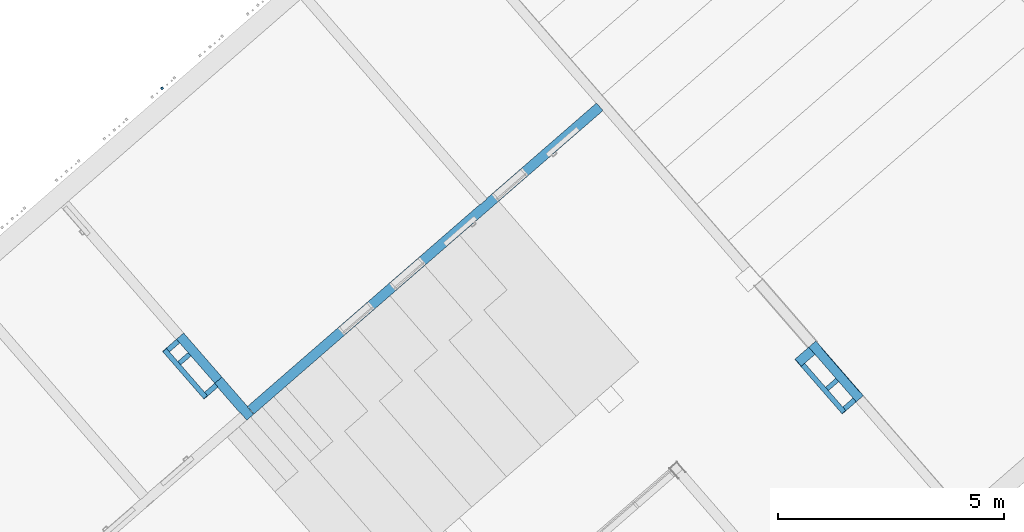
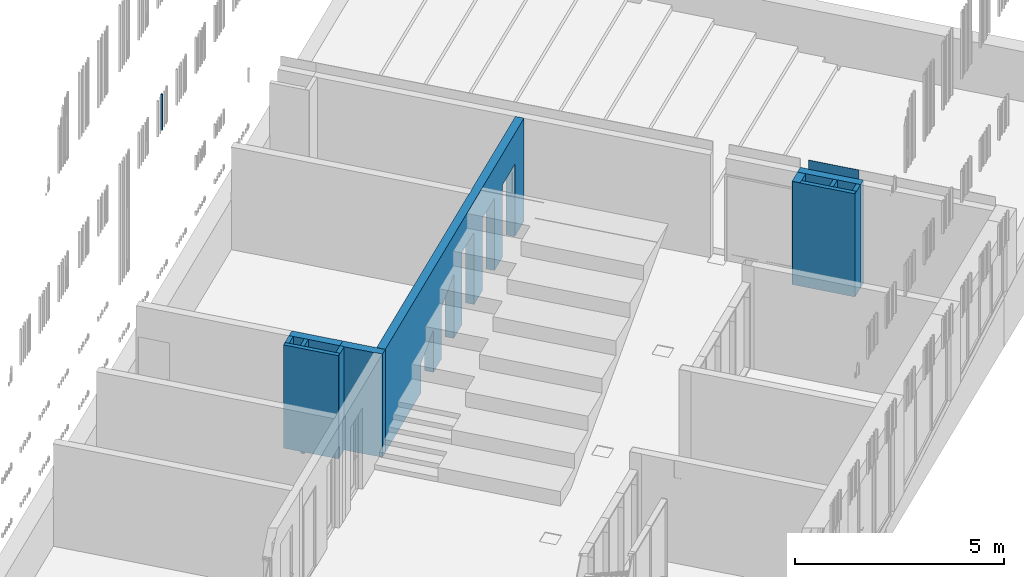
# One storey, part 77 of 124: 13 walls.
"""IFC2X3 building model written with IfcOpenShell, lengths in millimetres."""

import ifcopenshell
import ifcopenshell.guid

model = None  # the IFC model being written
_history = None  # IfcOwnerHistory: only IFC2X3 demands one
_inside = {}  # id of a spatial element -> (the spatial element, [elements in it])
_under = {}  # id of a project, library or spatial element -> (it, [spatial elements below it])
_declared = {}  # id of a project -> (the project, [libraries it declares])
_typed = {}  # id of a type object -> (the type object, [elements of that type])
_made_of = {}  # id of a material, layer set ... -> (it, [elements and type objects made of it])


def new_model(schema):
    """Start an empty IFC model of exactly this schema.

    Asked for "IFC4X3", IfcOpenShell would pick the latest addendum, in which some entities
    have other attributes; the version numbers below select the first issue.
    IFC2X3 requires an IfcOwnerHistory on every rooted entity: one is made here for all.
    """
    global model, _history
    if schema == "IFC4X3":
        model = ifcopenshell.file(schema_version=(4, 3, 0, 0))
    else:
        model = ifcopenshell.file(schema=schema)
    _inside.clear()
    _under.clear()
    _declared.clear()
    _typed.clear()
    _made_of.clear()
    _history = None
    if model.schema == "IFC2X3":
        org = make("IfcOrganization", Name="unknown")
        user = make(
            "IfcPersonAndOrganization",
            ThePerson=make("IfcPerson", FamilyName="unknown"),
            TheOrganization=org,
        )
        app = make(
            "IfcApplication",
            ApplicationDeveloper=org,
            Version="unknown",
            ApplicationFullName="unknown",
            ApplicationIdentifier="unknown",
        )
        _history = make(
            "IfcOwnerHistory",
            OwningUser=user,
            OwningApplication=app,
            ChangeAction="ADDED",
            CreationDate=0,
        )
    return model


def make(cls, **values):
    """One entity of the class cls with the attributes given. An attribute that is None is left unset."""
    return model.create_entity(
        cls, **{name: value for name, value in values.items() if value is not None}
    )


def entity(cls, *values):
    """Any entity or typed value of the class cls, its attributes in the order of the schema. None: left unset."""
    e = model.create_entity(cls)
    for i, value in enumerate(values):
        if value is not None:
            e[i] = value
    return e


def rooted(cls, **values):
    """An entity with a GlobalId (a new one), such as an element, a storey or a relation."""
    return make(cls, GlobalId=ifcopenshell.guid.new(), OwnerHistory=_history, **values)


def si_unit(unit_type, name, prefix=None):
    """IfcSIUnit, for example si_unit("LENGTHUNIT", "METRE", prefix="MILLI")."""
    return make("IfcSIUnit", UnitType=unit_type, Prefix=prefix, Name=name)


def converted_unit(unit_type, name, factor, base, dimensions=None, offset=None):
    """IfcConversionBasedUnit, such as the inch: factor (a typed value) times the base unit."""
    return make(
        "IfcConversionBasedUnit"
        if offset is None
        else "IfcConversionBasedUnitWithOffset",
        ConversionOffset=offset,
        Dimensions=None
        if dimensions is None
        else entity("IfcDimensionalExponents", *dimensions),
        UnitType=unit_type,
        Name=name,
        ConversionFactor=make(
            "IfcMeasureWithUnit", ValueComponent=factor, UnitComponent=base
        ),
    )


def derived_unit(unit_type, elements):
    """IfcDerivedUnit: a product of units, each with its exponent."""
    return make(
        "IfcDerivedUnit",
        Elements=[
            make("IfcDerivedUnitElement", Unit=unit, Exponent=power)
            for unit, power in elements
        ],
        UnitType=unit_type,
    )


def money_unit(currency):
    """IfcMonetaryUnit."""
    return make("IfcMonetaryUnit", Currency=currency)


def assignment(units):
    """IfcUnitAssignment: the units of a project."""
    return None if units is None else make("IfcUnitAssignment", Units=units)


def point(xyz):
    """IfcCartesianPoint."""
    return None if xyz is None else make("IfcCartesianPoint", Coordinates=xyz)


def direction(xyz):
    """IfcDirection."""
    return None if xyz is None else make("IfcDirection", DirectionRatios=xyz)


def frame(location, z_axis=None, x_axis=None):
    """IfcAxis2Placement3D, a coordinate frame: its origin and axes. An axis left out is left unset."""
    return make(
        "IfcAxis2Placement3D",
        Location=point(location),
        Axis=direction(z_axis),
        RefDirection=direction(x_axis),
    )


def origin_with_axes():
    """The frame at (0, 0, 0) with the z axis (0, 0, 1) and the x axis (1, 0, 0) written out."""
    return frame((0.0, 0.0, 0.0), z_axis=(0.0, 0.0, 1.0), x_axis=(1.0, 0.0, 0.0))


def place(relative_to, where):
    """IfcLocalPlacement: puts the frame where relative to a parent placement (None: the world)."""
    return make(
        "IfcLocalPlacement", PlacementRelTo=relative_to, RelativePlacement=where
    )


def context(
    kind, dimensions, precision=None, world=None, true_north=None, identifier=None
):
    """IfcGeometricRepresentationContext, for example the 3D "Model" context."""
    return make(
        "IfcGeometricRepresentationContext",
        ContextIdentifier=identifier,
        ContextType=kind,
        CoordinateSpaceDimension=dimensions,
        Precision=precision,
        WorldCoordinateSystem=world,
        TrueNorth=true_north,
    )


def subcontext(parent, identifier, kind, view, scale=None):
    """IfcGeometricRepresentationSubContext, for example "Body" below "Model"."""
    return make(
        "IfcGeometricRepresentationSubContext",
        ContextIdentifier=identifier,
        ContextType=kind,
        ParentContext=parent,
        TargetScale=scale,
        TargetView=view,
    )


def project(units=None, contexts=None):
    """IfcProject with its units and contexts."""
    return rooted(
        "IfcProject",
        Name="project",
        RepresentationContexts=contexts,
        UnitsInContext=assignment(units),
    )


def spatial(cls, under=None, at=None, **own):
    """A site, building, storey or space (cls), placed at a placement, below another one or the project."""
    s = rooted(cls, ObjectPlacement=at, **own)
    if under is not None:
        _under.setdefault(under.id(), (under, []))[1].append(s)
    return s


def faces_of(points, faces, orient=None, outer=None):
    """IfcFace entities. A face is a list of loops; a loop is a list of indices into points, from 0.

    orient and outer hold one flag for each loop. By default every Orientation is true, the
    first loop of a face is its IfcFaceOuterBound and the others are IfcFaceBound.
    """
    made = []
    for i, loops in enumerate(faces):
        bounds = []
        for j, loop in enumerate(loops):
            is_outer = j == 0 if outer is None else outer[i][j]
            bounds.append(
                make(
                    "IfcFaceOuterBound" if is_outer else "IfcFaceBound",
                    Bound=make("IfcPolyLoop", Polygon=[points[k] for k in loop]),
                    Orientation=True if orient is None else orient[i][j],
                )
            )
        made.append(make("IfcFace", Bounds=bounds))
    return made


def faceted_brep(points, faces, orient=None, outer=None, voids=None):
    """IfcFacetedBrep: a solid bounded by flat faces; with voids (closed shells), ...WithVoids."""
    shared = [point(p) for p in points]
    hull = make("IfcClosedShell", CfsFaces=faces_of(shared, faces, orient, outer))
    if voids is None:
        return make("IfcFacetedBrep", Outer=hull)
    return make(
        "IfcFacetedBrepWithVoids",
        Outer=hull,
        Voids=[
            make(cls, CfsFaces=faces_of(shared, fs, o, b)) for cls, fs, o, b in voids
        ],
    )


def shape(context_of_items, identifier, shape_type, items):
    """IfcShapeRepresentation: the items that make up one representation, for example the "Body"."""
    return make(
        "IfcShapeRepresentation",
        ContextOfItems=context_of_items,
        RepresentationIdentifier=identifier,
        RepresentationType=shape_type,
        Items=items,
    )


def material(Name=None, Category=None):
    """IfcMaterial."""
    return make("IfcMaterial", Name=Name, Category=Category)


def material_list(materials):
    """IfcMaterialList."""
    return make("IfcMaterialList", Materials=materials)


def made_of(thing, what):
    """Note that an element or type object is made of a material, layer set ...; save() writes the relation."""
    if what is not None:
        _made_of.setdefault(what.id(), (what, []))[1].append(thing)
    return thing


def type_object(cls, material=None, **own):
    """A type object (cls), such as IfcWallType, which elements share."""
    return made_of(rooted(cls, **own), material)


def element(
    cls,
    number,
    at=None,
    inside=None,
    cuts=None,
    type_object=None,
    material=None,
    context=None,
    identifier="Body",
    shape_type=None,
    held_by="IfcProductDefinitionShape",
    body=None,
    shapes=None,
    **own,
):
    """One element of the class cls, such as IfcWall. Its Tag is "e" and its number.

    at: its placement. inside: the storey or other place that contains it. cuts: it is an
    opening in that element (IfcRelVoidsElement). A single representation is given by context,
    identifier, shape_type and body (its items); several are given by shapes. held_by: the class
    of the entity that holds the representations. save() writes the other relations.
    """
    e = rooted(cls, Tag="e%d" % number, ObjectPlacement=at, **own)
    if body is not None:
        shapes = [shape(context, identifier, shape_type, body)]
    if shapes is not None:
        e.Representation = make(held_by, Representations=shapes)
    if inside is not None:
        _inside.setdefault(inside.id(), (inside, []))[1].append(e)
    if cuts is not None:
        rooted(
            "IfcRelVoidsElement", RelatingBuildingElement=cuts, RelatedOpeningElement=e
        )
    if type_object is not None:
        _typed.setdefault(type_object.id(), (type_object, []))[1].append(e)
    return made_of(e, material)


def aggregate(whole, parts):
    """IfcRelAggregates: a whole, such as a stair, and the parts it consists of."""
    return rooted("IfcRelAggregates", RelatingObject=whole, RelatedObjects=parts)


def save(model, path):
    """Write the relations noted so far, then the file.

    IfcRelAggregates (storeys below a building ...), IfcRelContainedInSpatialStructure (elements
    in a storey), IfcRelDefinesByType, IfcRelAssociatesMaterial and IfcRelDeclares: one each for
    every whole, place, type object, material and project.
    """
    for whole, parts in _under.values():
        aggregate(whole, parts)
    for where, things in _inside.values():
        rooted(
            "IfcRelContainedInSpatialStructure",
            RelatedElements=things,
            RelatingStructure=where,
        )
    for kind, things in _typed.values():
        rooted("IfcRelDefinesByType", RelatedObjects=things, RelatingType=kind)
    for what, things in _made_of.values():
        rooted("IfcRelAssociatesMaterial", RelatedObjects=things, RelatingMaterial=what)
    for by, libraries in _declared.values():
        rooted("IfcRelDeclares", RelatingContext=by, RelatedDefinitions=libraries)
    model.write(path)


model = new_model("IFC2X3")

# Units and contexts
model_context = context("Model", 3, precision=1e-05, world=origin_with_axes(), true_north=direction((0.0, 1.0)))
body_context = subcontext(model_context, "Body", "Model", "MODEL_VIEW")
ifc_project = project(units=[si_unit("LENGTHUNIT", "METRE", prefix="MILLI"), si_unit("AREAUNIT", "SQUARE_METRE"), si_unit("VOLUMEUNIT", "CUBIC_METRE"), converted_unit("PLANEANGLEUNIT", "DEGREE", entity("IfcPlaneAngleMeasure", 0.0174532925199), si_unit("PLANEANGLEUNIT", "RADIAN"), dimensions=[0, 0, 0, 0, 0, 0, 0]), si_unit("SOLIDANGLEUNIT", "STERADIAN"), money_unit("EUR"), converted_unit("TIMEUNIT", "Year", entity("IfcTimeMeasure", 31556926.0), si_unit("TIMEUNIT", "SECOND"), dimensions=[0, 0, 1, 0, 0, 0, 0]), si_unit("MASSUNIT", "GRAM", prefix="KILO"), si_unit("THERMODYNAMICTEMPERATUREUNIT", "DEGREE_CELSIUS"), si_unit("LUMINOUSINTENSITYUNIT", "LUMEN"), si_unit("ENERGYUNIT", "JOULE", prefix="MEGA"), derived_unit("THERMALCONDUCTANCEUNIT", [(si_unit("POWERUNIT", "WATT"), 1), (si_unit("LENGTHUNIT", "METRE"), -1), (si_unit("THERMODYNAMICTEMPERATUREUNIT", "KELVIN"), -1)]), derived_unit("SPECIFICHEATCAPACITYUNIT", [(si_unit("ENERGYUNIT", "JOULE"), 1), (si_unit("MASSUNIT", "GRAM", prefix="KILO"), -1), (si_unit("THERMODYNAMICTEMPERATUREUNIT", "KELVIN"), -1)]), derived_unit("MASSDENSITYUNIT", [(si_unit("MASSUNIT", "GRAM", prefix="KILO"), 1), (si_unit("VOLUMEUNIT", "CUBIC_METRE"), -1)])], contexts=[model_context])

# Site, building, storey
site_placement = place(None, origin_with_axes())
site = spatial("IfcSite", under=ifc_project, at=site_placement, Name="Site", CompositionType="ELEMENT")
building_placement = place(site_placement, origin_with_axes())
building = spatial("IfcBuilding", under=site, at=building_placement, Name="Building", CompositionType="ELEMENT")
storey_placement = place(building_placement, frame((0.0, 0.0, -1615.0), z_axis=(0.0, 0.0, 1.0), x_axis=(1.0, 0.0, 0.0)))
storey = spatial("IfcBuildingStorey", under=building, at=storey_placement, Name="0  korrus", CompositionType="ELEMENT", Elevation=-1615.0)

# Walls
ifc_material_1 = material(Name="Müüriplokk - Konstuktsioon")
wall_type_1 = type_object("IfcWallType", Name="SS-09", PredefinedType="NOTDEFINED")
wall_1_placement = place(storey_placement, frame((155142.671632, 98563.6640369, -150.0), z_axis=(0.0, 0.0, 1.0), x_axis=(-0.754709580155, -0.656059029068, 0.0)))
element("IfcWall", 1, at=wall_1_placement, inside=storey, type_object=wall_type_1, material=ifc_material_1, Name="SS-09", context=body_context, shape_type="Brep", body=[
    faceted_brep([(0.0, 100.0, 0.0), (0.00632440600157, 100.00000001, 130.0), (0.00632440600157, 100.0, 3150.0), (300.004503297, 100.0, 3150.0), (300.004503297, 100.000000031, 130.0), (300.0, 100.0, 0.0), (0.0, 0.0, 0.0), (0.00648134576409, 1.01749719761e-08, 130.0), (0.00648134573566, 0.0, 3150.0), (300.005184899, 0.0, 3150.0), (300.005184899, 3.53423956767e-08, 130.0), (300.0, 0.0, 0.0)], [[[0, 1, 2, 3, 4, 5]], [[6, 7, 8, 2, 1, 0]], [[3, 2, 8, 9]], [[5, 4, 3, 9, 10, 11]], [[6, 0, 5, 11]], [[9, 8, 7, 6, 11, 10]]]),
])
wall_2_placement = place(storey_placement, frame((169456.785265, 97995.1121238, -20.0), z_axis=(0.0, 0.0, 1.0), x_axis=(-0.754709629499, -0.656058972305, 0.0)))
element("IfcWall", 2, at=wall_2_placement, inside=storey, type_object=wall_type_1, material=ifc_material_1, Name="SS-09", context=body_context, shape_type="Brep", body=[
    faceted_brep([(299.999978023, 100.0, 0.0), (299.999926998, 0.0, 0.0), (-0.000105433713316, 0.0, 0.0), (-5.90422644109e-05, 100.0, 0.0), (299.999978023, 100.0, 3020.0), (299.999926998, 0.0, 3020.0), (-0.000105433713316, 0.0, 3020.0), (-5.90422644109e-05, 100.0, 3020.0)], [[[0, 1, 2, 3]], [[1, 0, 4, 5]], [[1, 5, 6, 2]], [[7, 3, 2, 6]], [[4, 0, 3, 7]], [[5, 4, 7, 6]]]),
])
ifc_material_2 = material(Name="Krohv - Lubjakivi")
ifc_material_3 = material(Name="Raudbetoon - Konstruktsioon")
ifc_material_list_1 = material_list([ifc_material_2, ifc_material_3, ifc_material_2, ifc_material_2])
wall_type_2 = type_object("IfcWallType", Name="SS-10", PredefinedType="NOTDEFINED")
wall_3_placement = place(storey_placement, frame((164305.735635, 103905.474868, -20.0), z_axis=(0.0, 0.0, 1.0), x_axis=(-0.754709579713, -0.656059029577, 0.0)))
element("IfcWall", 3, at=wall_3_placement, inside=storey, type_object=wall_type_2, material=ifc_material_list_1, Name="SS-10", context=body_context, shape_type="Brep", body=[
    faceted_brep([(4570.09832953, 0.0, 20.0), (4570.09832953, 0.0, 2120.0), (3670.09832953, 0.0, 2120.0), (3670.09832953, 0.0, 20.0), (3670.09832953, 0.0, 0.0), (3070.09832953, 0.0, 0.0), (3070.09832953, 0.0, 20.0), (3070.09832953, 0.0, 2120.0), (2170.09832953, 0.0, 2120.0), (2170.09832953, 0.0, 20.0), (2170.09832953, 0.0, 0.0), (1570.09832953, 0.0, 0.0), (1570.09832953, 0.0, 20.0), (1570.09832953, 0.0, 2120.0), (670.098329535, 0.0, 2120.0), (670.098329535, 0.0, 20.0), (670.098329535, 0.0, 0.0), (-0.000138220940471, 0.0, 0.0), (-0.000138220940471, 0.0, 3020.0), (10210.0001384, 0.0, 3020.0), (10210.0001384, 0.0, 0.0), (7570.00015422, 0.0, 0.0), (7570.00015422, 0.0, 20.0), (7570.00015422, 0.0, 865.0), (6670.00015422, 0.0, 1241.0), (6670.00015422, 0.0, 20.0), (6670.00015422, 0.0, 0.0), (6070.00015422, 0.0, 0.0), (6070.00015422, 0.0, 20.0), (6070.00015422, 0.0, 1492.0), (5170.00015422, 0.0, 1869.0), (5170.00015422, 0.0, 20.0), (5170.00015422, 0.0, 0.0), (4570.09832953, 0.0, 0.0), (4570.09832953, -10.0, 20.0), (4570.09832953, -10.0, 2120.0), (3670.09832953, -10.0, 2120.0), (3670.09832953, -10.0, 20.0), (3670.09832953, -9.99999999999, 0.0), (3070.09832953, -9.99999999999, 0.0), (3070.09832953, -10.0, 20.0), (3070.09832953, -10.0, 2120.0), (2170.09832953, -10.0, 2120.0), (2170.09832953, -10.0, 20.0), (2170.09832953, -10.0, 0.0), (1570.09832953, -9.99999999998, 0.0), (1570.09832953, -10.0, 20.0), (1570.09832953, -10.0, 2120.0), (670.098329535, -10.0, 2120.0), (670.098329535, -10.0, 20.0), (670.098329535, -9.99999999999, 0.0), (-0.000138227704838, -9.99999999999, 0.0), (-0.000138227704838, -9.99999999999, 3020.0), (10210.0001384, -10.0, 3020.0), (10210.0001384, -10.0, 0.0), (7570.00015422, -10.0, 0.0), (7570.00015422, -10.0, 20.0), (7570.00015422, -10.0, 865.0), (6670.00015422, -10.0, 1241.0), (6670.00015422, -10.0, 20.0), (6670.00015422, -9.99999999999, 0.0), (6070.00015422, -10.0, 0.0), (6070.00015422, -10.0, 20.0), (6070.00015422, -10.0, 1492.0), (5170.00015422, -10.0, 1869.0), (5170.00015422, -10.0, 20.0), (5170.00015422, -9.99999999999, 0.0), (4570.09832953, -10.0, 0.0)], [[[0, 1, 2, 3, 4, 5, 6, 7, 8, 9, 10, 11, 12, 13, 14, 15, 16, 17, 18, 19, 20, 21, 22, 23, 24, 25, 26, 27, 28, 29, 30, 31, 32, 33]], [[1, 0, 34, 35]], [[2, 1, 35, 36]], [[3, 2, 36, 37]], [[3, 37, 38, 4]], [[38, 39, 5, 4]], [[39, 40, 6, 5]], [[41, 7, 6, 40]], [[42, 8, 7, 41]], [[43, 9, 8, 42]], [[10, 9, 43, 44]], [[44, 45, 11, 10]], [[12, 11, 45, 46]], [[12, 46, 47, 13]], [[13, 47, 48, 14]], [[14, 48, 49, 15]], [[49, 50, 16, 15]], [[50, 51, 17, 16]], [[52, 18, 17, 51]], [[53, 19, 18, 52]], [[53, 54, 20, 19]], [[21, 20, 54, 55]], [[56, 22, 21, 55]], [[23, 22, 56, 57]], [[24, 23, 57, 58]], [[25, 24, 58, 59]], [[25, 59, 60, 26]], [[60, 61, 27, 26]], [[27, 61, 62, 28]], [[62, 63, 29, 28]], [[63, 64, 30, 29]], [[64, 65, 31, 30]], [[66, 32, 31, 65]], [[66, 67, 33, 32]], [[34, 0, 33, 67]], [[35, 34, 67, 66, 65, 64, 63, 62, 61, 60, 59, 58, 57, 56, 55, 54, 53, 52, 51, 50, 49, 48, 47, 46, 45, 44, 43, 42, 41, 40, 39, 38, 37, 36]]]),
    faceted_brep([(4570.09832953, -10.0, 20.0), (4570.09832953, -10.0, 2120.0), (3670.09832953, -10.0, 2120.0), (3670.09832953, -10.0, 20.0), (3670.09832953, -10.0, 0.0), (3070.09832953, -10.0, 0.0), (3070.09832953, -10.0, 20.0), (3070.09832953, -10.0, 2120.0), (2170.09832953, -10.0, 2120.0), (2170.09832953, -10.0, 20.0), (2170.09832953, -10.0, 0.0), (1570.09832953, -10.0, 0.0), (1570.09832953, -10.0, 20.0), (1570.09832953, -10.0, 2120.0), (670.098329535, -10.0, 2120.0), (670.098329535, -10.0, 20.0), (670.098329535, -10.0, 0.0), (-10.0001382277, -10.0, 0.0), (-10.0001382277, -10.0, 3020.0), (10210.0001384, -10.0, 3020.0), (10210.0001384, -10.0, 0.0), (7570.00015422, -10.0, 0.0), (7570.00015422, -10.0, 20.0), (7570.00015422, -10.0, 865.0), (6670.00015422, -10.0, 1241.0), (6670.00015422, -10.0, 20.0), (6670.00015422, -10.0, 0.0), (6070.00015422, -10.0, 0.0), (6070.00015422, -10.0, 20.0), (6070.00015422, -10.0, 1492.0), (5170.00015422, -10.0, 1869.0), (5170.00015422, -10.0, 20.0), (5170.00015422, -10.0, 0.0), (4570.09832953, -10.0, 0.0), (4570.09832953, -210.0, 20.0), (4570.09832953, -210.0, 2120.0), (3670.09832953, -210.0, 2120.0), (3670.09832953, -210.0, 20.0), (3670.09832953, -210.0, 0.0), (3070.09832953, -210.0, 0.0), (3070.09832953, -210.0, 20.0), (3070.09832953, -210.0, 2120.0), (2170.09832953, -210.0, 2120.0), (2170.09832953, -210.0, 20.0), (2170.09832953, -210.0, 0.0), (1570.09832953, -210.0, 0.0), (1570.09832953, -210.0, 20.0), (1570.09832953, -210.0, 2120.0), (670.098329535, -210.0, 2120.0), (670.098329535, -210.0, 20.0), (670.098329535, -210.0, 0.0), (-10.0001383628, -210.0, 0.0), (-10.0001383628, -210.0, 3020.0), (10210.0001384, -210.0, 3020.0), (10210.0001384, -210.0, 0.0), (7570.00015422, -210.0, 0.0), (7570.00015422, -210.0, 20.0), (7570.00015422, -210.0, 865.0), (6670.00015422, -210.0, 1241.0), (6670.00015422, -210.0, 20.0), (6670.00015422, -210.0, 0.0), (6070.00015422, -210.0, 0.0), (6070.00015422, -210.0, 20.0), (6070.00015422, -210.0, 1492.0), (5170.00015422, -210.0, 1869.0), (5170.00015422, -210.0, 20.0), (5170.00015422, -210.0, 0.0), (4570.09832953, -210.0, 0.0)], [[[0, 1, 2, 3, 4, 5, 6, 7, 8, 9, 10, 11, 12, 13, 14, 15, 16, 17, 18, 19, 20, 21, 22, 23, 24, 25, 26, 27, 28, 29, 30, 31, 32, 33]], [[1, 0, 34, 35]], [[2, 1, 35, 36]], [[3, 2, 36, 37]], [[3, 37, 38, 4]], [[38, 39, 5, 4]], [[39, 40, 6, 5]], [[41, 7, 6, 40]], [[42, 8, 7, 41]], [[43, 9, 8, 42]], [[10, 9, 43, 44]], [[44, 45, 11, 10]], [[12, 11, 45, 46]], [[12, 46, 47, 13]], [[13, 47, 48, 14]], [[14, 48, 49, 15]], [[49, 50, 16, 15]], [[50, 51, 17, 16]], [[52, 18, 17, 51]], [[53, 19, 18, 52]], [[53, 54, 20, 19]], [[21, 20, 54, 55]], [[56, 22, 21, 55]], [[23, 22, 56, 57]], [[24, 23, 57, 58]], [[25, 24, 58, 59]], [[25, 59, 60, 26]], [[60, 61, 27, 26]], [[27, 61, 62, 28]], [[62, 63, 29, 28]], [[63, 64, 30, 29]], [[64, 65, 31, 30]], [[66, 32, 31, 65]], [[66, 67, 33, 32]], [[34, 0, 33, 67]], [[35, 34, 67, 66, 65, 64, 63, 62, 61, 60, 59, 58, 57, 56, 55, 54, 53, 52, 51, 50, 49, 48, 47, 46, 45, 44, 43, 42, 41, 40, 39, 38, 37, 36]]]),
    faceted_brep([(1570.09832953, -210.0, 20.0), (1570.09832953, -210.0, 2120.0), (670.098329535, -210.0, 2120.0), (670.098329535, -210.0, 20.0), (670.098329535, -210.0, 0.0), (-0.000138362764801, -210.0, 0.0), (-0.000138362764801, -210.0, 3020.0), (3210.00013713, -210.0, 3020.0), (3210.00013713, -210.0, 0.0), (3070.09832953, -210.0, 0.0), (3070.09832953, -210.0, 20.0), (3070.09832953, -210.0, 2120.0), (2170.09832953, -210.0, 2120.0), (2170.09832953, -210.0, 20.0), (2170.09832953, -210.0, 0.0), (1570.09832953, -210.0, 0.0), (1570.09832953, -220.0, 20.0), (1570.09832953, -220.0, 2120.0), (670.098329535, -220.0, 2120.0), (670.098329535, -220.0, 20.0), (670.098329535, -220.0, 0.0), (-0.000138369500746, -220.0, 0.0), (-0.000138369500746, -220.0, 3020.0), (3210.00013713, -220.0, 3020.0), (3210.00013713, -220.0, 0.0), (3070.09832953, -220.0, 0.0), (3070.09832953, -220.0, 20.0), (3070.09832953, -220.0, 2120.0), (2170.09832953, -220.0, 2120.0), (2170.09832953, -220.0, 20.0), (2170.09832953, -220.0, 0.0), (1570.09832953, -220.0, 0.0)], [[[0, 1, 2, 3, 4, 5, 6, 7, 8, 9, 10, 11, 12, 13, 14, 15]], [[1, 0, 16, 17]], [[2, 1, 17, 18]], [[3, 2, 18, 19]], [[3, 19, 20, 4]], [[21, 5, 4, 20]], [[6, 5, 21, 22]], [[6, 22, 23, 7]], [[24, 8, 7, 23]], [[8, 24, 25, 9]], [[10, 9, 25, 26]], [[10, 26, 27, 11]], [[11, 27, 28, 12]], [[12, 28, 29, 13]], [[29, 30, 14, 13]], [[31, 15, 14, 30]], [[16, 0, 15, 31]], [[17, 16, 31, 30, 29, 28, 27, 26, 25, 24, 23, 22, 21, 20, 19, 18]]]),
    faceted_brep([(4570.09832953, -210.0, 20.0), (4570.09832953, -210.0, 2120.0), (3670.09832953, -210.0, 2120.0), (3670.09832953, -210.0, 20.0), (3670.09832953, -210.0, 0.0), (3410.00013713, -210.0, 0.0), (3410.00013713, -210.0, 3020.0), (10210.0001384, -210.0, 3020.0), (10210.0001384, -210.0, 0.0), (7570.00015422, -210.0, 0.0), (7570.00015422, -210.0, 20.0), (7570.00015422, -210.0, 865.0), (6670.00015422, -210.0, 1241.0), (6670.00015422, -210.0, 20.0), (6670.00015422, -210.0, 0.0), (6070.00015422, -210.0, 0.0), (6070.00015422, -210.0, 20.0), (6070.00015422, -210.0, 1492.0), (5170.00015422, -210.0, 1869.0), (5170.00015422, -210.0, 20.0), (5170.00015422, -210.0, 0.0), (4570.09832953, -210.0, 0.0), (4570.09832953, -220.0, 20.0), (4570.09832953, -220.0, 2120.0), (3670.09832953, -220.0, 2120.0), (3670.09832953, -220.0, 20.0), (3670.09832953, -220.0, 0.0), (3410.00013713, -220.0, 0.0), (3410.00013713, -220.0, 3020.0), (10210.0001384, -220.0, 3020.0), (10210.0001384, -220.0, 0.0), (7570.00015422, -220.0, 0.0), (7570.00015422, -220.0, 20.0), (7570.00015422, -220.0, 865.0), (6670.00015422, -220.0, 1241.0), (6670.00015422, -220.0, 20.0), (6670.00015422, -220.0, 0.0), (6070.00015422, -220.0, 0.0), (6070.00015422, -220.0, 20.0), (6070.00015422, -220.0, 1492.0), (5170.00015422, -220.0, 1869.0), (5170.00015422, -220.0, 20.0), (5170.00015422, -220.0, 0.0), (4570.09832953, -220.0, 0.0)], [[[0, 1, 2, 3, 4, 5, 6, 7, 8, 9, 10, 11, 12, 13, 14, 15, 16, 17, 18, 19, 20, 21]], [[1, 0, 22, 23]], [[2, 1, 23, 24]], [[3, 2, 24, 25]], [[3, 25, 26, 4]], [[5, 4, 26, 27]], [[5, 27, 28, 6]], [[6, 28, 29, 7]], [[8, 7, 29, 30]], [[30, 31, 9, 8]], [[9, 31, 32, 10]], [[32, 33, 11, 10]], [[33, 34, 12, 11]], [[34, 35, 13, 12]], [[36, 14, 13, 35]], [[15, 14, 36, 37]], [[16, 15, 37, 38]], [[16, 38, 39, 17]], [[17, 39, 40, 18]], [[18, 40, 41, 19]], [[41, 42, 20, 19]], [[21, 20, 42, 43]], [[22, 0, 21, 43]], [[23, 22, 43, 42, 41, 40, 39, 38, 37, 36, 35, 34, 33, 32, 31, 30, 29, 28, 27, 26, 25, 24]]]),
])
ifc_material_list_2 = material_list([ifc_material_2, ifc_material_2, ifc_material_3, ifc_material_2, ifc_material_2])
wall_4_placement = place(storey_placement, frame((155725.577663, 97877.8648252, -20.0), z_axis=(0.0, 0.0, 1.0), x_axis=(0.656055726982, -0.754712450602, 0.0)))
element("IfcWall", 4, at=wall_4_placement, inside=storey, type_object=wall_type_2, material=ifc_material_list_2, Name="SS-10", context=body_context, shape_type="Brep", body=[
    faceted_brep([(1079.99507052, 220.0, 0.0), (1079.99507052, 210.0, 0.0), (1066.4370857, 210.0, 0.0), (1066.43704195, 220.0, 0.0), (1079.99507052, 220.0, 3020.0), (1079.99507052, 210.0, 3020.0), (1066.4370857, 210.0, 3020.0), (1066.43704195, 220.0, 3020.0)], [[[0, 1, 2, 3]], [[0, 4, 5, 1]], [[1, 5, 6, 2]], [[3, 2, 6, 7]], [[4, 0, 3, 7]], [[5, 4, 7, 6]]]),
    faceted_brep([(866.437085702, 210.0, 0.0), (-0.000918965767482, 210.0, 0.0), (-0.000962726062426, 220.0, 0.0), (866.43704195, 220.0, 0.0), (866.437085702, 210.0, 3020.0), (-0.000918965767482, 210.0, 3020.0), (-0.000962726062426, 220.0, 3020.0), (866.43704195, 220.0, 3020.0)], [[[0, 1, 2, 3]], [[4, 5, 1, 0]], [[2, 1, 5, 6]], [[3, 2, 6, 7]], [[3, 7, 4, 0]], [[7, 6, 5, 4]]]),
    faceted_brep([(1079.99507052, 210.0, 0.0), (1079.99507052, 10.0, 0.0), (-4.37602665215e-05, 10.0, 0.0), (-0.000918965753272, 210.0, 0.0), (1079.99507052, 210.0, 3020.0), (1079.99507052, 10.0, 3020.0), (-4.37602665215e-05, 10.0, 3020.0), (-0.000918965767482, 210.0, 3020.0)], [[[0, 1, 2, 3]], [[0, 4, 5, 1]], [[1, 5, 6, 2]], [[3, 2, 6, 7]], [[4, 0, 3, 7]], [[5, 4, 7, 6]]]),
    faceted_brep([(1079.99507052, 10.0, 0.0), (1079.99507052, 0.0, 0.0), (1066.4380045, 0.0, 0.0), (1066.43796075, 10.0, 0.0), (1079.99507052, 10.0, 3020.0), (1079.99507052, 0.0, 3020.0), (1066.4380045, 0.0, 3020.0), (1066.43796075, 10.0, 3020.0)], [[[0, 1, 2, 3]], [[0, 4, 5, 1]], [[1, 5, 6, 2]], [[3, 2, 6, 7]], [[4, 0, 3, 7]], [[5, 4, 7, 6]]]),
    faceted_brep([(866.438004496, 0.0, 0.0), (100.000000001, 0.0, 0.0), (99.9999562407, 9.99999999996, 0.0), (866.437960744, 10.0, 0.0), (866.438004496, 0.0, 3020.0), (100.000000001, 0.0, 3020.0), (99.9999562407, 9.99999999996, 3020.0), (866.437960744, 10.0, 3020.0)], [[[0, 1, 2, 3]], [[4, 5, 1, 0]], [[2, 1, 5, 6]], [[3, 2, 6, 7]], [[3, 7, 4, 0]], [[7, 6, 5, 4]]]),
])
ifc_material_list_3 = material_list([ifc_material_2, ifc_material_1])
wall_type_3 = type_object("IfcWallType", Name="SS-02", PredefinedType="NOTDEFINED")
wall_5_placement = place(storey_placement, frame((168771.13142, 98326.591455, -20.0), z_axis=(0.0, 0.0, 1.0), x_axis=(0.754709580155, 0.656059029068, 0.0)))
element("IfcWall", 5, at=wall_5_placement, inside=storey, type_object=wall_type_3, material=ifc_material_list_3, Name="SS-02", context=body_context, shape_type="Brep", body=[
    faceted_brep([(300.000107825, 200.0, 0.0), (-109.999882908, 200.0, 0.0), (-109.999877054, 210.0, 0.0), (300.000113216, 210.0, 0.0), (300.000107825, 200.0, 3020.0), (-109.999882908, 200.0, 3020.0), (-109.999877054, 210.0, 3020.0), (300.000113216, 210.0, 3020.0)], [[[0, 1, 2, 3]], [[4, 5, 1, 0]], [[2, 1, 5, 6]], [[3, 2, 6, 7]], [[3, 7, 4, 0]], [[7, 6, 5, 4]]]),
    faceted_brep([(300.0, 0.0, 0.0), (-100.0, 0.0, 0.0), (-99.9998829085, 200.0, 0.0), (300.000107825, 200.0, 0.0), (300.0, 0.0, 3020.0), (-100.0, 0.0, 3020.0), (-99.9998829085, 200.0, 3020.0), (300.000107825, 200.0, 3020.0)], [[[0, 1, 2, 3]], [[4, 5, 1, 0]], [[2, 1, 5, 6]], [[3, 2, 6, 7]], [[3, 7, 4, 0]], [[7, 6, 5, 4]]]),
])
ifc_material_list_4 = material_list([ifc_material_2, ifc_material_3])
wall_type_4 = type_object("IfcWallType", Name="SS-11", PredefinedType="NOTDEFINED")
wall_6_placement = place(storey_placement, frame((168997.544294, 98523.4091637, -20.0), z_axis=(0.0, 0.0, 1.0), x_axis=(0.656058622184, -0.754709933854, 0.0)))
element("IfcWall", 6, at=wall_6_placement, inside=storey, type_object=wall_type_4, material=ifc_material_list_4, Name="SS-11", context=body_context, shape_type="Brep", body=[
    faceted_brep([(0.0, 209.999998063, 3285.0), (1280.00002257, 209.999998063, 3285.0), (1280.00002257, 209.999998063, 3020.0), (1389.99989743, 209.999998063, 3020.0), (1389.99989743, 210.0, 0.0), (-210.000115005, 210.0, 0.0), (-210.000115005, 209.999998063, 3020.0), (0.0, 209.999998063, 3020.0), (0.0, 200.000000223, 3285.0), (1280.00002257, 200.000000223, 3285.0), (1280.00002257, 200.000000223, 3020.0), (1389.99990282, 200.000000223, 3020.0), (1389.99990282, 200.0, 0.0), (-210.000109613, 200.0, 0.0), (-210.000109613, 200.000000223, 3020.0), (0.0, 200.000000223, 3020.0)], [[[0, 1, 2, 3, 4, 5, 6, 7]], [[8, 9, 1, 0]], [[10, 2, 1, 9]], [[10, 11, 3, 2]], [[4, 3, 11, 12]], [[5, 4, 12, 13]], [[13, 14, 6, 5]], [[15, 7, 6, 14]], [[15, 8, 0, 7]], [[11, 10, 9, 8, 15, 14, 13, 12]]]),
    faceted_brep([(-7.8750559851e-05, 199.999841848, 3020.0), (1279.99991474, 200.000590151, 3020.0), (1389.99990282, 200.000000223, 3020.0), (1389.99990282, 200.0, 0.0), (-210.000109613, 200.0, 0.0), (-210.000109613, 200.000000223, 3020.0), (2.90745845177e-05, 0.00010317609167, 3020.0), (1280.00002257, -0.000132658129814, 3020.0), (1390.00001064, 0.0, 3020.0), (-210.000001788, 0.0, 3020.0), (1390.00001064, 0.0, 0.0), (-210.000001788, 0.0, 0.0)], [[[0, 1, 2, 3, 4, 5]], [[6, 7, 8, 2, 1, 0, 5, 9]], [[3, 2, 8, 10]], [[4, 3, 10, 11]], [[11, 9, 5, 4]], [[7, 6, 9, 11, 10, 8]]]),
])
wall_7_placement = place(storey_placement, frame((154886.800038, 98857.9998227, -20.0), z_axis=(0.0, 0.0, 1.0), x_axis=(0.656060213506, -0.754708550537, 0.0)))
element("IfcWall", 7, at=wall_7_placement, inside=storey, type_object=wall_type_4, material=ifc_material_list_4, Name="SS-11", context=body_context, shape_type="Brep", body=[
    faceted_brep([(1289.99999998, 210.0, 0.0), (1289.99999998, 200.0, 0.0), (0.0, 200.0, 0.0), (0.0, 210.0, 0.0), (1289.99999998, 210.0, 3020.0), (1289.99999998, 200.0, 3020.0), (0.0, 200.0, 3020.0), (0.0, 210.0, 3020.0)], [[[0, 1, 2, 3]], [[0, 4, 5, 1]], [[1, 5, 6, 2]], [[3, 2, 6, 7]], [[4, 0, 3, 7]], [[5, 4, 7, 6]]]),
    faceted_brep([(1289.99999998, 200.0, 0.0), (1289.99999998, 0.0, 0.0), (0.0, 0.0, 0.0), (0.0, 200.0, 0.0), (1289.99999998, 200.0, 3020.0), (1289.99999998, 0.0, 3020.0), (0.0, 0.0, 3020.0), (0.0, 200.0, 3020.0)], [[[0, 1, 2, 3]], [[0, 4, 5, 1]], [[1, 5, 6, 2]], [[3, 2, 6, 7]], [[4, 0, 3, 7]], [[5, 4, 7, 6]]]),
])
ifc_material_4 = material(Name="Site specified")
wall_type_5 = type_object("IfcWallType", Name="Puitfassaadi ribistik", PredefinedType="NOTDEFINED")
wall_8_placement = place(storey_placement, frame((154570.66241, 104402.642678, 5771.0), z_axis=(0.0, 0.0, 1.0), x_axis=(0.754709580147, 0.656059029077, 0.0)))
element("IfcWall", 8, at=wall_8_placement, inside=storey, type_object=wall_type_5, material=ifc_material_4, Name="Site specified", context=body_context, shape_type="Brep", body=[
    faceted_brep([(25.0, 25.0, 1050.0), (25.0, 25.0, 0.0), (-25.0, 25.0, 0.0), (-25.0, 25.0, 1050.0), (25.0, -25.0, 1050.0), (25.0, -25.0, 0.0), (-25.0, -25.0, 0.0), (-25.0, -25.0, 1050.0)], [[[0, 1, 2, 3]], [[4, 5, 1, 0]], [[2, 1, 5, 6]], [[3, 2, 6, 7]], [[4, 0, 3, 7]], [[7, 6, 5, 4]]]),
])
wall_type_6 = type_object("IfcWallType", Name="SS-08", PredefinedType="NOTDEFINED")
wall_9_placement = place(storey_placement, frame((154732.553657, 98578.1640602, -20.0), z_axis=(0.0, 0.0, 1.0), x_axis=(0.754709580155, 0.656059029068, 0.0)))
element("IfcWall", 9, at=wall_9_placement, inside=storey, type_object=wall_type_6, material=ifc_material_list_3, Name="SS-08", context=body_context, shape_type="Brep", body=[
    faceted_brep([(300.000015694, 100.0, 0.0), (-100.000681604, 100.0, 0.0), (-100.000749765, 110.0, 0.0), (300.0, 110.0, 0.0), (300.000015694, 100.0, 3020.0), (-100.000681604, 100.0, 3020.0), (-100.000749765, 110.0, 3020.0), (300.0, 110.0, 3020.0)], [[[0, 1, 2, 3]], [[4, 5, 1, 0]], [[2, 1, 5, 6]], [[3, 2, 6, 7]], [[3, 7, 4, 0]], [[7, 6, 5, 4]]]),
    faceted_brep([(300.000172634, 0.0, 0.0), (0.0, 0.0, 0.0), (-0.000681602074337, 100.0, 0.0), (300.000015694, 100.0, 0.0), (300.000172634, 0.0, 3020.0), (0.0, 0.0, 3020.0), (-0.000681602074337, 100.0, 3020.0), (300.000015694, 100.0, 3020.0)], [[[0, 1, 2, 3]], [[4, 5, 1, 0]], [[2, 1, 5, 6]], [[3, 2, 6, 7]], [[3, 7, 4, 0]], [[7, 6, 5, 4]]]),
])
ifc_material_list_5 = material_list([ifc_material_1, ifc_material_2])
wall_10_placement = place(storey_placement, frame((155506.712601, 97687.6083291, -20.0), z_axis=(0.0, 0.0, 1.0), x_axis=(0.754709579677, 0.656059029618, 0.0)))
element("IfcWall", 10, at=wall_10_placement, inside=storey, type_object=wall_type_6, material=ifc_material_list_5, Name="SS-08", context=body_context, shape_type="Brep", body=[
    faceted_brep([(299.999051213, 0.0, 3020.0), (0.0, 0.0, 3020.0), (0.000681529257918, -100.0, 3020.0), (299.99861361, -100.0, 3020.0), (299.999051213, 0.0, 0.0), (0.0, 0.0, 0.0), (0.000681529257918, -100.0, 0.0), (299.99861361, -100.0, 0.0)], [[[0, 1, 2, 3]], [[4, 5, 1, 0]], [[2, 1, 5, 6]], [[3, 2, 6, 7]], [[3, 7, 4, 0]], [[7, 6, 5, 4]]]),
    faceted_brep([(289.99861361, -100.0, 3020.0), (-99.9993184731, -100.0, 3020.0), (-99.9992503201, -110.0, 3020.0), (289.99856985, -110.0, 3020.0), (289.99861361, -100.0, 0.0), (-99.9993184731, -100.0, 0.0), (-99.9992503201, -110.0, 0.0), (289.99856985, -110.0, 0.0)], [[[0, 1, 2, 3]], [[4, 5, 1, 0]], [[2, 1, 5, 6]], [[3, 2, 6, 7]], [[3, 7, 4, 0]], [[7, 6, 5, 4]]]),
])
wall_11_placement = place(storey_placement, frame((169837.2993, 97557.3803924, -20.0), z_axis=(0.0, 0.0, 1.0), x_axis=(-0.754709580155, -0.656059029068, 0.0)))
element("IfcWall", 11, at=wall_11_placement, inside=storey, type_object=wall_type_6, material=ifc_material_list_3, Name="SS-08", context=body_context, shape_type="Brep", body=[
    faceted_brep([(400.000058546, 100.0, 0.0), (-5.39128564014e-06, 100.0, 0.0), (0.0, 110.0, 0.0), (400.0000644, 110.0, 0.0), (400.000058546, 100.0, 3020.0), (-5.39128564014e-06, 100.0, 3020.0), (0.0, 110.0, 3020.0), (400.0000644, 110.0, 3020.0)], [[[0, 1, 2, 3]], [[4, 5, 1, 0]], [[2, 1, 5, 6]], [[3, 2, 6, 7]], [[3, 7, 4, 0]], [[7, 6, 5, 4]]]),
    faceted_brep([(300.0, 0.0, 0.0), (-5.93038862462e-05, 0.0, 0.0), (-5.39128564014e-06, 100.0, 0.0), (300.000058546, 100.0, 0.0), (300.0, 0.0, 3020.0), (-5.93038862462e-05, 0.0, 3020.0), (-5.39128564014e-06, 100.0, 3020.0), (300.000058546, 100.0, 3020.0)], [[[0, 1, 2, 3]], [[4, 5, 1, 0]], [[2, 1, 5, 6]], [[3, 2, 6, 7]], [[3, 7, 4, 0]], [[7, 6, 5, 4]]]),
])
wall_12_placement = place(storey_placement, frame((155506.712601, 97687.6083291, -20.0), z_axis=(0.0, 0.0, 1.0), x_axis=(-0.656064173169, 0.754705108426, 0.0)))
element("IfcWall", 12, at=wall_12_placement, inside=storey, type_object=wall_type_6, material=ifc_material_list_3, Name="SS-08", context=body_context, shape_type="Brep", body=[
    faceted_brep([(1290.00558833, 100.0, 0.0), (-109.999318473, 100.0, 0.0), (-109.99925032, 110.0, 0.0), (1290.00565649, 110.0, 0.0), (1290.00558833, 100.0, 3020.0), (-109.999318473, 100.0, 3020.0), (-109.99925032, 110.0, 3020.0), (1290.00565649, 110.0, 3020.0)], [[[0, 1, 2, 3]], [[4, 5, 1, 0]], [[2, 1, 5, 6]], [[3, 2, 6, 7]], [[3, 7, 4, 0]], [[7, 6, 5, 4]]]),
    faceted_brep([(1280.00490673, 0.0, 0.0), (-100.000000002, 0.0, 0.0), (-99.9993184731, 100.0, 0.0), (1280.00558833, 100.0, 0.0), (1280.00490673, 0.0, 3020.0), (-100.000000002, 0.0, 3020.0), (-99.9993184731, 100.0, 3020.0), (1280.00558833, 100.0, 3020.0)], [[[0, 1, 2, 3]], [[4, 5, 1, 0]], [[2, 1, 5, 6]], [[3, 2, 6, 7]], [[3, 7, 4, 0]], [[7, 6, 5, 4]]]),
])
wall_13_placement = place(storey_placement, frame((169610.886426, 97360.5626837, -20.0), z_axis=(0.0, 0.0, 1.0), x_axis=(-0.656058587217, 0.75470996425, 0.0)))
element("IfcWall", 13, at=wall_13_placement, inside=storey, type_object=wall_type_6, material=ifc_material_list_3, Name="SS-08", context=body_context, shape_type="Brep", body=[
    faceted_brep([(1479.99996402, 100.0, 0.0), (-110.000058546, 100.0, 0.0), (-110.0000644, 110.0, 0.0), (1479.99995817, 110.0, 0.0), (1479.99996402, 100.0, 3020.0), (-110.000058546, 100.0, 3020.0), (-110.0000644, 110.0, 3020.0), (1479.99995817, 110.0, 3020.0)], [[[0, 1, 2, 3]], [[4, 5, 1, 0]], [[2, 1, 5, 6]], [[3, 2, 6, 7]], [[3, 7, 4, 0]], [[7, 6, 5, 4]]]),
    faceted_brep([(1280.00002257, 0.0, 0.0), (-100.0, 0.0, 0.0), (-100.000058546, 100.0, 0.0), (1279.99996402, 100.0, 0.0), (1280.00002257, 0.0, 3020.0), (-100.0, 0.0, 3020.0), (-100.000058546, 100.0, 3020.0), (1279.99996402, 100.0, 3020.0)], [[[0, 1, 2, 3]], [[4, 5, 1, 0]], [[2, 1, 5, 6]], [[3, 2, 6, 7]], [[3, 7, 4, 0]], [[7, 6, 5, 4]]]),
])

save(model, "model.ifc")
